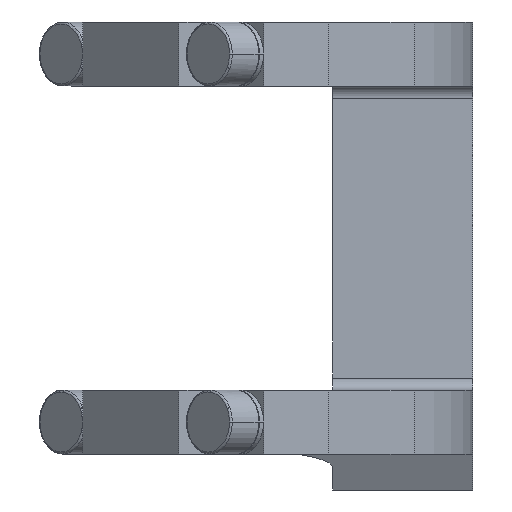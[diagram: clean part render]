
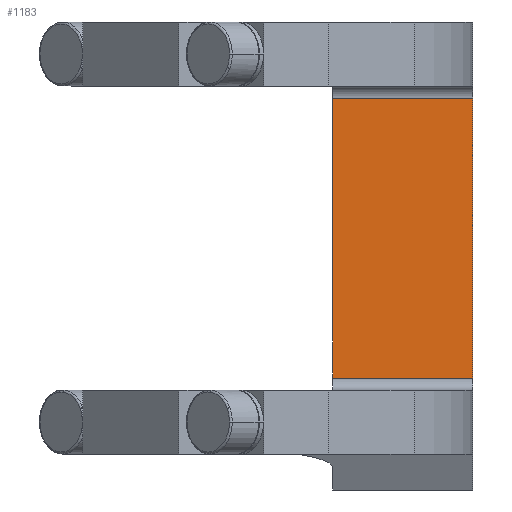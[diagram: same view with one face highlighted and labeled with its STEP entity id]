
A CAD part, front view. The second image highlights one B-rep face of the part: STEP entity #1183.
In plain terms, the highlighted planar face has unit normal (0, -1, 0).
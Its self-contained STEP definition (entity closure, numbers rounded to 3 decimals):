
#431=CARTESIAN_POINT('Vertex',(60.,115.,35.)) ;
#434=CARTESIAN_POINT('Line Origine',(60.,115.,0.)) ;
#438=CARTESIAN_POINT('Vertex',(60.,115.,-35.)) ;
#673=CARTESIAN_POINT('Vertex',(25.,115.,-35.)) ;
#676=CARTESIAN_POINT('Line Origine',(25.,115.,0.)) ;
#680=CARTESIAN_POINT('Vertex',(25.,115.,35.)) ;
#878=CARTESIAN_POINT('Line Origine',(5.,115.,35.)) ;
#1160=CARTESIAN_POINT('Line Origine',(5.,115.,-35.)) ;
#1172=CARTESIAN_POINT('Axis2P3D Location',(60.,115.,35.)) ;
#435=DIRECTION('Vector Direction',(0.,0.,-1.)) ;
#677=DIRECTION('Vector Direction',(0.,0.,-1.)) ;
#879=DIRECTION('Vector Direction',(1.,0.,0.)) ;
#1161=DIRECTION('Vector Direction',(1.,0.,0.)) ;
#1173=DIRECTION('Axis2P3D Direction',(0.,1.,0.)) ;
#1174=DIRECTION('Axis2P3D XDirection',(0.,0.,-1.)) ;
#1175=AXIS2_PLACEMENT_3D('Plane Axis2P3D',#1172,#1173,#1174) ;
#1178=ORIENTED_EDGE('',*,*,#682,.T.) ;
#1179=ORIENTED_EDGE('',*,*,#1164,.F.) ;
#1180=ORIENTED_EDGE('',*,*,#440,.F.) ;
#1181=ORIENTED_EDGE('',*,*,#882,.T.) ;
#436=VECTOR('Line Direction',#435,1.) ;
#678=VECTOR('Line Direction',#677,1.) ;
#880=VECTOR('Line Direction',#879,1.) ;
#1162=VECTOR('Line Direction',#1161,1.) ;
#1183=ADVANCED_FACE('Brep With Voids',(#1182),#1176,.F.) ;
#440=EDGE_CURVE('',#432,#439,#437,.T.) ;
#682=EDGE_CURVE('',#681,#674,#679,.T.) ;
#882=EDGE_CURVE('',#432,#681,#881,.F.) ;
#1164=EDGE_CURVE('',#439,#674,#1163,.F.) ;
#1177=EDGE_LOOP('',(#1178,#1179,#1180,#1181)) ;
#1182=FACE_OUTER_BOUND('',#1177,.T.) ;
#437=LINE('Line',#434,#436) ;
#679=LINE('Line',#676,#678) ;
#881=LINE('Line',#878,#880) ;
#1163=LINE('Line',#1160,#1162) ;
#1176=PLANE('Plane',#1175) ;
#432=VERTEX_POINT('',#431) ;
#439=VERTEX_POINT('',#438) ;
#674=VERTEX_POINT('',#673) ;
#681=VERTEX_POINT('',#680) ;
